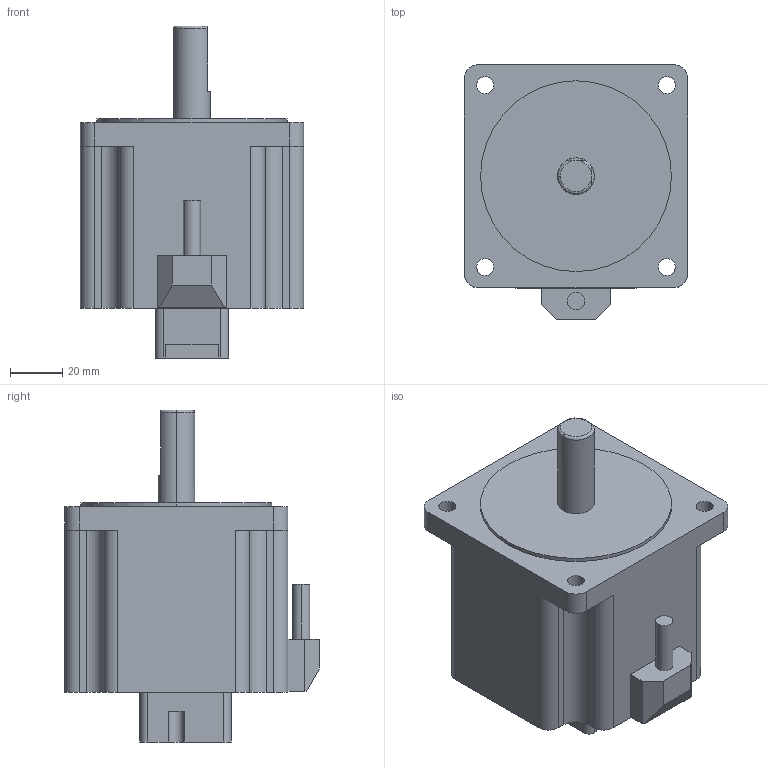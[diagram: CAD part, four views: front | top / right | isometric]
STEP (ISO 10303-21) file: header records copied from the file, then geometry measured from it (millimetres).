
FILE_DESCRIPTION (( 'STEP AP203' ), '1' );
FILE_NAME ('P-PMSA-U86D1HE-NL_3D.STEP', '2020-02-06T05:25:43', ( '' ), ( '' ), 'SwSTEP 2.0', 'SolidWorks 2018', '' );
FILE_SCHEMA (( 'CONFIG_CONTROL_DESIGN' ));
Length unit declared in the file: millimetre
Products named in the file (1): P-PMSA-U86D1HE-NL_3D
Bounding box: 85.5 x 97.5 x 127.1 mm (x, y, z)
Volume: 498212.4 mm3; surface area: 43136 mm2
Topology: 1 solids, 1 shells, 88 faces, 240 edges, 159 vertices
Faces by surface type: plane 48, cylinder 37, torus 3
Entity records: 2945 total; most frequent: CARTESIAN_POINT 546, DIRECTION 496, ORIENTED_EDGE 480, EDGE_CURVE 240, AXIS2_PLACEMENT_3D 171, VERTEX_POINT 159, LINE 154, VECTOR 154
